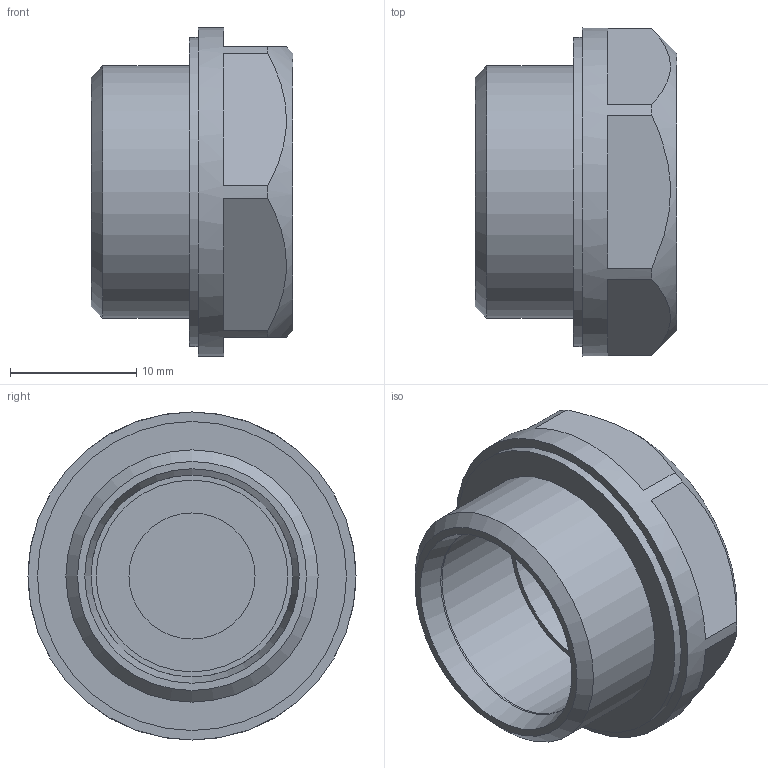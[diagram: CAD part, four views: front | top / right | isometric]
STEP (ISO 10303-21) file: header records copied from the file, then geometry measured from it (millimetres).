
FILE_DESCRIPTION( ( 'STEP AP203' ), '1' );
FILE_NAME( 'C:/Temp/Ganter_Step_05_03_2020/data/3_5/gn_7403/gn_7403_al/Breather strainer GN 7403-AL-M20x1,5-100.stp', '2020-03-12T13:42:59', ( 'License CC BY-ND 4.0' ), ( 'CADENAS' ), ' ', 'PARTsolutions', ' ' );
FILE_SCHEMA( ( 'CONFIG_CONTROL_DESIGN' ) );
Length unit declared in the file: millimetre
Products named in the file (1): _Breather strainer GN 7403-AL-M20x1,5-100
Bounding box: 16 x 26 x 26 mm (x, y, z)
Volume: 3340 mm3; surface area: 2815.1 mm2
Topology: 1 solids, 1 shells, 32 faces, 69 edges, 45 vertices
Faces by surface type: plane 20, cylinder 7, cone 4, torus 1
Full cylindrical faces by diameter (mm): 10 x1, 14 x1, 15.2 x1, 16 x1, 20 x1, 24.5 x1, 26 x1
Entity records: 906 total; most frequent: CARTESIAN_POINT 211, DIRECTION 144, ORIENTED_EDGE 108, AXIS2_PLACEMENT_3D 63, EDGE_CURVE 54, EDGE_LOOP 50, VERTEX_POINT 42, FACE_OUTER_BOUND 40
